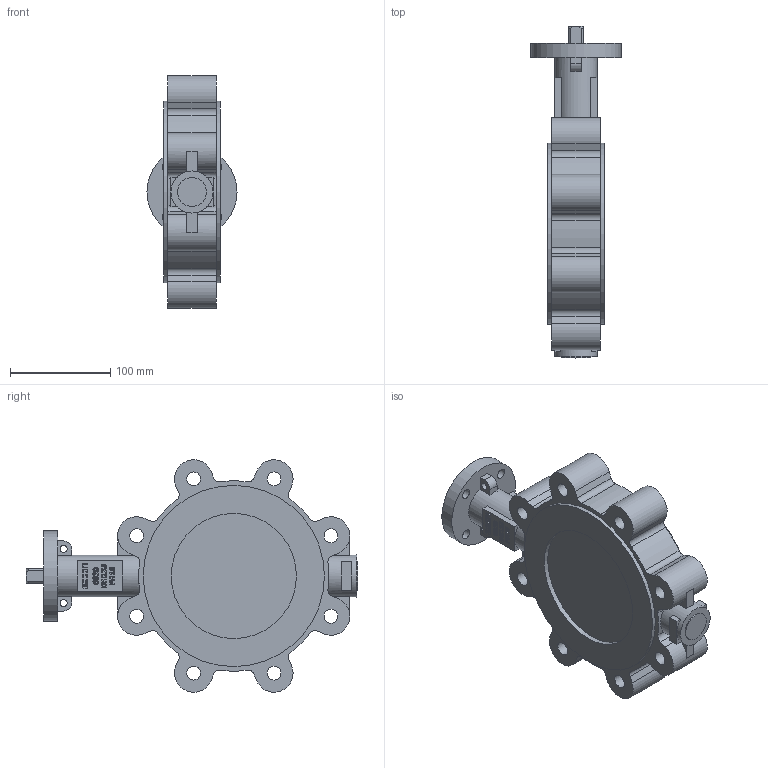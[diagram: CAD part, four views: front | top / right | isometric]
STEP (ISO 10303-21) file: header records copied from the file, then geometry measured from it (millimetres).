
FILE_DESCRIPTION(/* description */ (''),/* implementation_level */ '2;1');
FILE_NAME(/* name */ '6820-DN125-PN16-NBR - 13332782.stp',/* time_stamp */ '2024-09-04T21:59:12+02:00',/* author */ ('roger.thijssen'),/* organization */ (''),/* preprocessor_version */ 'ST-DEVELOPER v20',/* originating_system */ 'Autodesk Inventor 2024',/* authorisation */ '');
FILE_SCHEMA (('AUTOMOTIVE_DESIGN { 1 0 10303 214 3 1 1 }'));
Length unit declared in the file: millimetre
Products named in the file (1): 6820-DN125-PN16
Bounding box: 90 x 331.5 x 231.98 mm (x, y, z)
Volume: 2015370.1 mm3; surface area: 172781.8 mm2
Topology: 1 solids, 1 shells, 498 faces, 1353 edges, 897 vertices
Faces by surface type: plane 274, bspline 126, cylinder 93, cone 5
Full cylindrical faces by diameter (mm): 4.917 x1, 7 x2, 10 x4, 13.835 x8, 29 x1, 42 x2, 90 x1, 125 x2, 181 x2
Entity records: 17440 total; most frequent: CARTESIAN_POINT 4949, ORIENTED_EDGE 2704, DIRECTION 2040, EDGE_CURVE 1352, VERTEX_POINT 897, LINE 854, VECTOR 854, AXIS2_PLACEMENT_3D 593
